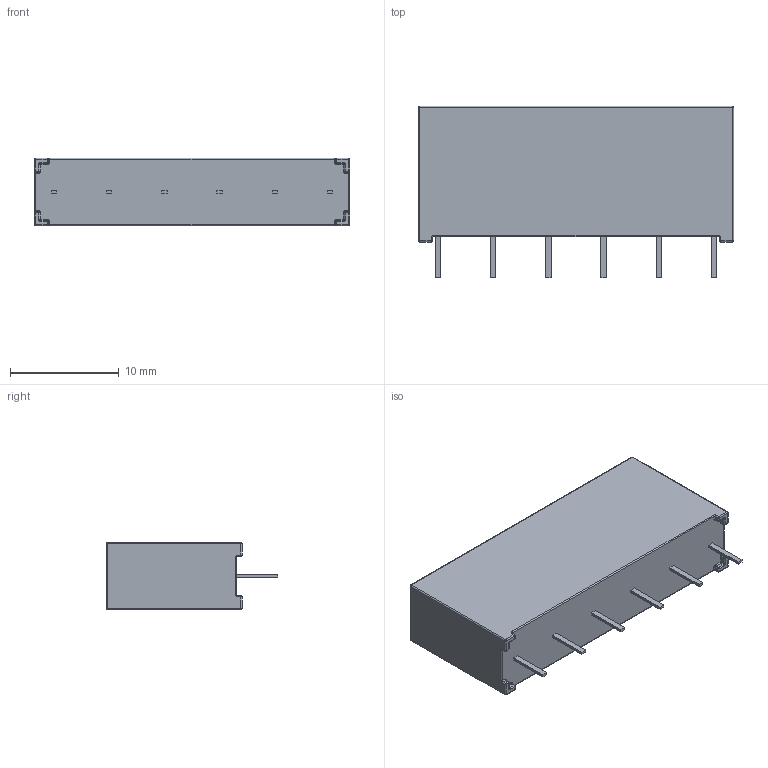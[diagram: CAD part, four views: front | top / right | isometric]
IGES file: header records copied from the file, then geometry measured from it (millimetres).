
Start section: SolidWorks IGES file using analytic representation for surfaces
Global section: file name: C:\Users\ahmet.furkan\OneDrive - Pickering\Desktop\Series_144\144-2-A.IGS; native system: SolidWorks 2023; preprocessor: SolidWorks 2023; author: Ahmet.Turan; date: 240307.161808; units: millimetre
Bounding box: 29 x 15.8 x 6.22 mm (x, y, z)
Surface area: 1241.4 mm2 (no closed solid volume)
Topology: 0 solids, 0 shells, 809 faces, 6768 edges, 6740 vertices
Faces by surface type: bspline 709, revolution 100
